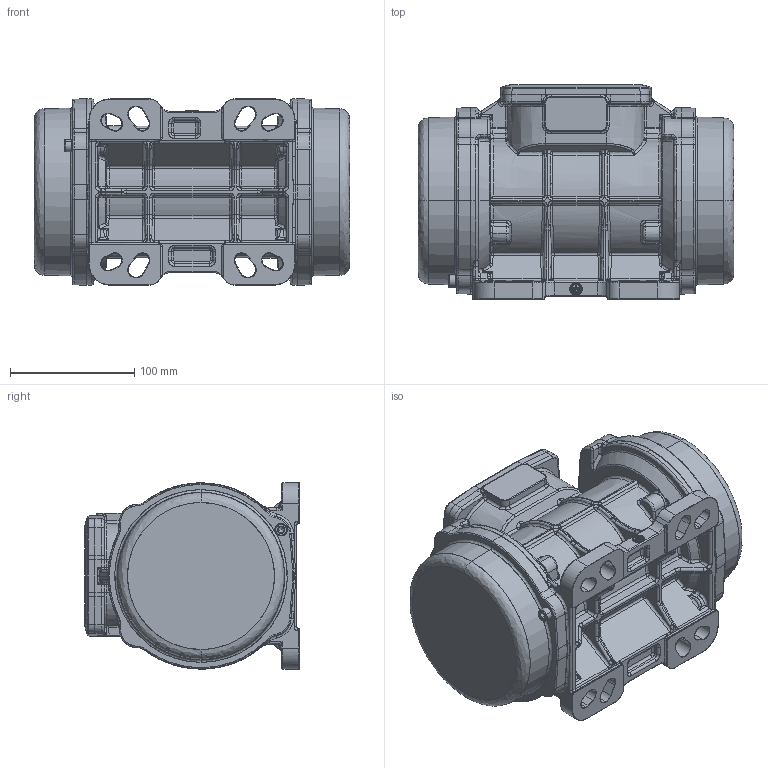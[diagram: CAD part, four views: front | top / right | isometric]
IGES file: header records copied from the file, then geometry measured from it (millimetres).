
Start section: SolidWorks IGES file using analytic representation for surfaces
Global section: file name: C:\Users\UT14\Desktop\DISEGNI_DI_INGOMBRO_RICCARDO\IGES\30-A0\MVE300-3-36-30A0.IGS; native system: SolidWorks 2016; preprocessor: SolidWorks 2016; author: UT14; date: 180606.165653; units: millimetre
Bounding box: 254 x 172.5 x 150 mm (x, y, z)
Surface area: 225249 mm2 (no closed solid volume)
Topology: 0 solids, 0 shells, 2160 faces, 17538 edges, 17399 vertices
Faces by surface type: bspline 1248, revolution 912
